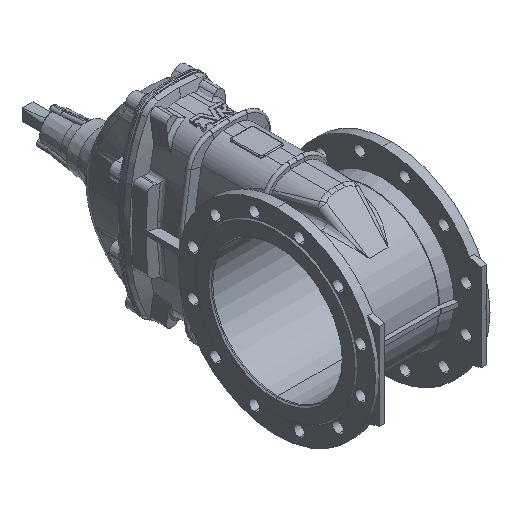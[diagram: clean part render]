
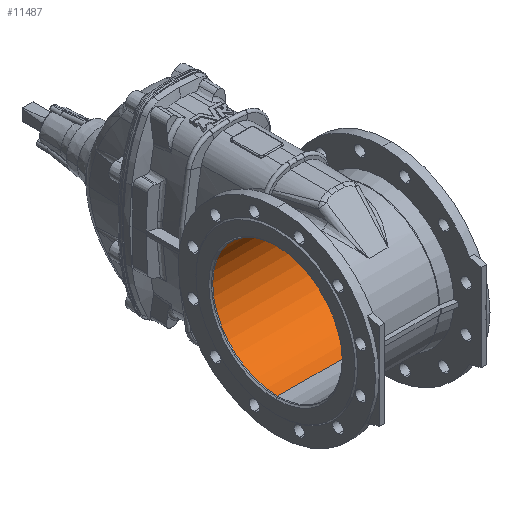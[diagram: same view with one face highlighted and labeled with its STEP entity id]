
A CAD part, isometric view. The second image highlights one B-rep face of the part: STEP entity #11487.
In plain terms, the highlighted cylindrical face has radius 150 mm (diameter 300 mm), a partial arc.
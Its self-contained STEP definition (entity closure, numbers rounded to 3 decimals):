
#1804 = VERTEX_POINT ( 'NONE', #2345 ) ;
#2091 = CIRCLE ( 'NONE', #22198, 150. ) ;
#2345 = CARTESIAN_POINT ( 'NONE',  ( -129.757, 0., -150. ) ) ;
#2384 = ORIENTED_EDGE ( 'NONE', *, *, #27180, .T. ) ;
#3385 = EDGE_CURVE ( 'NONE', #21665, #1804, #8778, .T. ) ;
#4475 = ORIENTED_EDGE ( 'NONE', *, *, #3385, .F. ) ;
#4644 = CIRCLE ( 'NONE', #8677, 150. ) ;
#4964 = VERTEX_POINT ( 'NONE', #14005 ) ;
#5336 = DIRECTION ( 'NONE',  ( 0., 0., 1. ) ) ;
#6431 = CARTESIAN_POINT ( 'NONE',  ( 135., 0., -150. ) ) ;
#7896 = CARTESIAN_POINT ( 'NONE',  ( -129.757, 0., 150. ) ) ;
#8026 = CARTESIAN_POINT ( 'NONE',  ( 135., 0., 0. ) ) ;
#8677 = AXIS2_PLACEMENT_3D ( 'NONE', #33330, #28089, #28266 ) ;
#8778 = LINE ( 'NONE', #6431, #20852 ) ;
#9428 = DIRECTION ( 'NONE',  ( -1., 0., 0. ) ) ;
#10723 = FACE_OUTER_BOUND ( 'NONE', #11561, .T. ) ;
#11487 = ADVANCED_FACE ( 'NONE', ( #10723 ), #32686, .F. ) ;
#11561 = EDGE_LOOP ( 'NONE', ( #4475, #21068, #11684, #2384 ) ) ;
#11684 = ORIENTED_EDGE ( 'NONE', *, *, #14447, .T. ) ;
#13376 = CARTESIAN_POINT ( 'NONE',  ( 129.757, 0., 0. ) ) ;
#13743 = DIRECTION ( 'NONE',  ( 0., 0., 1. ) ) ;
#14005 = CARTESIAN_POINT ( 'NONE',  ( 129.757, 0., 150. ) ) ;
#14447 = EDGE_CURVE ( 'NONE', #4964, #15960, #23256, .T. ) ;
#15066 = DIRECTION ( 'NONE',  ( -1., 0., 0. ) ) ;
#15960 = VERTEX_POINT ( 'NONE', #7896 ) ;
#16254 = EDGE_CURVE ( 'NONE', #21665, #4964, #2091, .T. ) ;
#18983 = DIRECTION ( 'NONE',  ( -1., 0., 0. ) ) ;
#20330 = AXIS2_PLACEMENT_3D ( 'NONE', #8026, #18983, #5336 ) ;
#20511 = CARTESIAN_POINT ( 'NONE',  ( 129.757, 0., -150. ) ) ;
#20852 = VECTOR ( 'NONE', #15066, 1000. ) ;
#20914 = CARTESIAN_POINT ( 'NONE',  ( 135., 0., 150. ) ) ;
#21068 = ORIENTED_EDGE ( 'NONE', *, *, #16254, .T. ) ;
#21665 = VERTEX_POINT ( 'NONE', #20511 ) ;
#22198 = AXIS2_PLACEMENT_3D ( 'NONE', #13376, #24527, #13743 ) ;
#23256 = LINE ( 'NONE', #20914, #33106 ) ;
#24527 = DIRECTION ( 'NONE',  ( 1., 0., 0. ) ) ;
#27180 = EDGE_CURVE ( 'NONE', #15960, #1804, #4644, .T. ) ;
#28089 = DIRECTION ( 'NONE',  ( -1., 0., 0. ) ) ;
#28266 = DIRECTION ( 'NONE',  ( 0., 0., 1. ) ) ;
#32686 = CYLINDRICAL_SURFACE ( 'NONE', #20330, 150. ) ;
#33106 = VECTOR ( 'NONE', #9428, 1000. ) ;
#33330 = CARTESIAN_POINT ( 'NONE',  ( -129.757, 0., 0. ) ) ;
